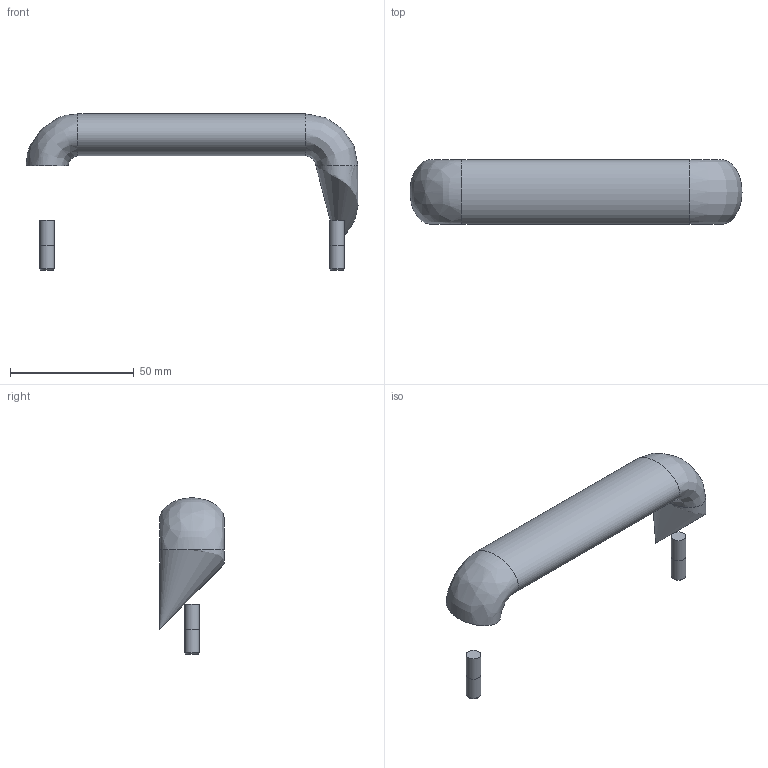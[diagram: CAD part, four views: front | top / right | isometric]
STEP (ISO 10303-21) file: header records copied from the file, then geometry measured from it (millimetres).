
FILE_DESCRIPTION( ('This file contains a STEP AP42 implementation' ,'as created by ZW3D STEP Interface translator.') ,'2;1' );
FILE_NAME( 'U.50_150.stp' ,'26 5 8. 655 9', (''), ('ZWCAD Software Co.'), 'Version 1.0', 'ZW3D to STEP translator', '' );
FILE_SCHEMA(('AP242_MANAGED_MODEL_BASED_3D_ENGINEERING_MIM_LF { 1 0 10303 442 1 1 4 }'));
Length unit declared in the file: millimetre
Products named in the file (1): 0
Bounding box: 133.98 x 26 x 62.98 mm (x, y, z)
Volume: 54024.4 mm3; surface area: 12514.4 mm2
Topology: 5 solids, 5 shells, 19 faces, 24 edges, 15 vertices
Faces by surface type: plane 8, bspline 5, cylinder 4, cone 2
Full cylindrical faces by diameter (mm): 6 x4
Entity records: 565 total; most frequent: CARTESIAN_POINT 216, DIRECTION 67, ORIENTED_EDGE 54, AXIS2_PLACEMENT_3D 29, EDGE_CURVE 27, EDGE_LOOP 21, FACE_OUTER_BOUND 19, ADVANCED_FACE 19
